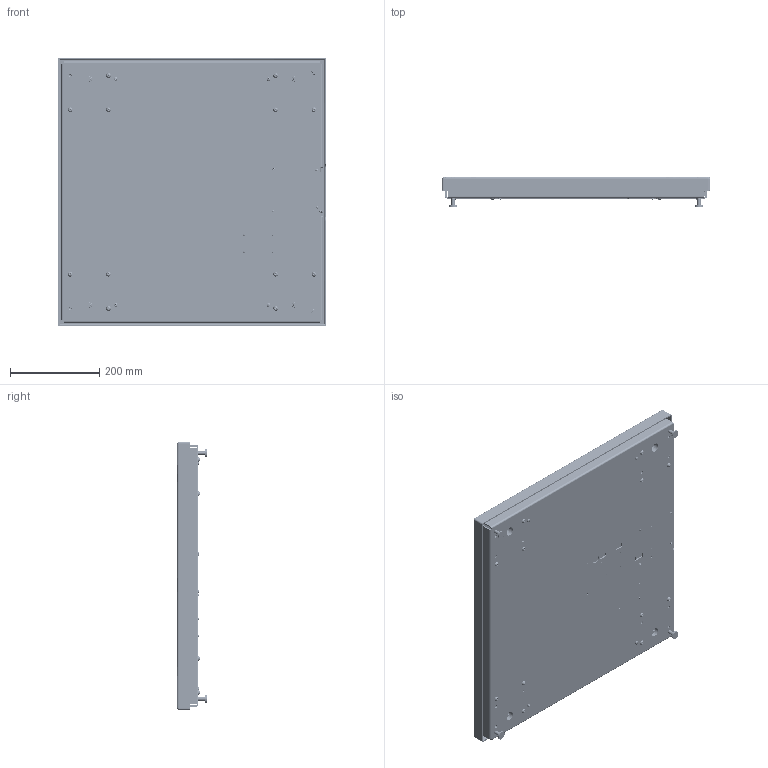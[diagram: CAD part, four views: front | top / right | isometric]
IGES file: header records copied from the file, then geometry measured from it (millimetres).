
Start section: SolidWorks IGES file using analytic representation for surfaces
Global section: file name: C:\0_Work\SolidWorks\~0_E-Scales\24x24\E-SCALE-6610-2424-660.IGS; native system: SolidWorks 2017; preprocessor: SolidWorks 2017; author: vach01; date: 190829.154228; units: millimetre
Bounding box: 600.13 x 66.39 x 600 mm (x, y, z)
Surface area: 1986859.4 mm2 (no closed solid volume)
Topology: 0 solids, 0 shells, 17934 faces, 142218 edges, 142064 vertices
Faces by surface type: bspline 14436, revolution 3498
